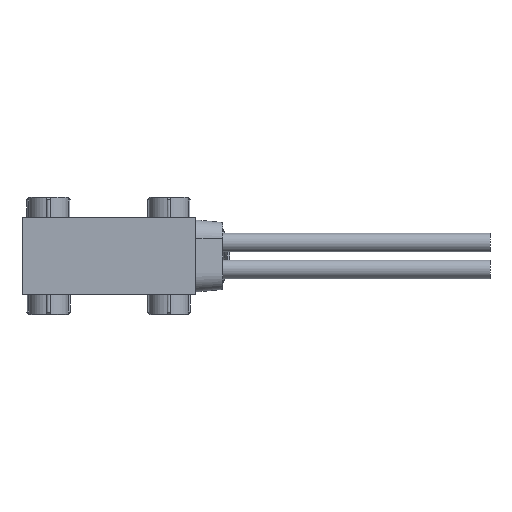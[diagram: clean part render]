
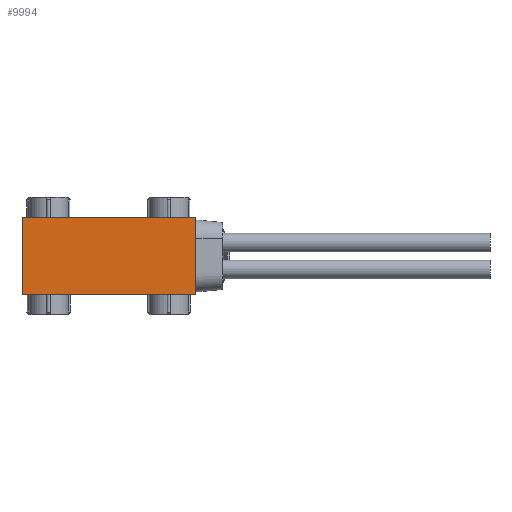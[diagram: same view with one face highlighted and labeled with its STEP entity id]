
A CAD part, front view. The second image highlights one B-rep face of the part: STEP entity #9994.
In plain terms, the highlighted planar face has unit normal (0, -1, 0).
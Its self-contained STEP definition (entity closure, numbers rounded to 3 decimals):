
#5664 = CARTESIAN_POINT ( 'NONE',  ( -6.5, -3.645, -2.9 ) ) ;
#5665 = DIRECTION ( 'NONE',  ( 1., 0., 0. ) ) ;
#5666 = VECTOR ( 'NONE', #5665, 1000. ) ;
#5667 = CARTESIAN_POINT ( 'NONE',  ( 6.5, -3.645, -2.9 ) ) ;
#5668 = LINE ( 'NONE', #5667, #5666 ) ;
#5669 = CARTESIAN_POINT ( 'NONE',  ( 6.5, -3.645, -2.9 ) ) ;
#6301 = DIRECTION ( 'NONE',  ( 0., 0., -1. ) ) ;
#6302 = VECTOR ( 'NONE', #6301, 1000. ) ;
#6303 = CARTESIAN_POINT ( 'NONE',  ( 6.5, -3.645, 2.9 ) ) ;
#6304 = LINE ( 'NONE', #6303, #6302 ) ;
#6353 = DIRECTION ( 'NONE',  ( -1., 0., 0. ) ) ;
#6354 = DIRECTION ( 'NONE',  ( 0., 1., 0. ) ) ;
#6355 = CARTESIAN_POINT ( 'NONE',  ( 6.5, -3.645, 2.9 ) ) ;
#6356 = AXIS2_PLACEMENT_3D ( 'NONE', #6355, #6354, #6353 ) ;
#6358 = PLANE ( 'NONE',  #6356 ) ;
#6373 = FACE_OUTER_BOUND ( 'NONE', #9995, .T. ) ;
#6374 = DIRECTION ( 'NONE',  ( 0., 0., -1. ) ) ;
#6375 = VECTOR ( 'NONE', #6374, 1000. ) ;
#6376 = CARTESIAN_POINT ( 'NONE',  ( -6.5, -3.645, 2.9 ) ) ;
#6377 = LINE ( 'NONE', #6376, #6375 ) ;
#9885 = VERTEX_POINT ( 'NONE', #5669 ) ;
#9887 = EDGE_CURVE ( 'NONE', #9888, #9885, #5668, .T. ) ;
#9888 = VERTEX_POINT ( 'NONE', #5664 ) ;
#9982 = EDGE_CURVE ( 'NONE', #12413, #9885, #6304, .T. ) ;
#9989 = EDGE_CURVE ( 'NONE', #12404, #9888, #6377, .T. ) ;
#9994 = ADVANCED_FACE ( 'NONE', ( #6373 ), #6358, .F. ) ;
#9995 = EDGE_LOOP ( 'NONE', ( #9996, #9997, #9998, #9999 ) ) ;
#9996 = ORIENTED_EDGE ( 'NONE', *, *, #9887, .T. ) ;
#9997 = ORIENTED_EDGE ( 'NONE', *, *, #9982, .F. ) ;
#9998 = ORIENTED_EDGE ( 'NONE', *, *, #12411, .F. ) ;
#9999 = ORIENTED_EDGE ( 'NONE', *, *, #9989, .T. ) ;
#12404 = VERTEX_POINT ( 'NONE', #16952 ) ;
#12411 = EDGE_CURVE ( 'NONE', #12404, #12413, #16943, .T. ) ;
#12413 = VERTEX_POINT ( 'NONE', #16938 ) ;
#16938 = CARTESIAN_POINT ( 'NONE',  ( 6.5, -3.645, 2.9 ) ) ;
#16940 = DIRECTION ( 'NONE',  ( 1., 0., 0. ) ) ;
#16941 = VECTOR ( 'NONE', #16940, 1000. ) ;
#16942 = CARTESIAN_POINT ( 'NONE',  ( 6.5, -3.645, 2.9 ) ) ;
#16943 = LINE ( 'NONE', #16942, #16941 ) ;
#16952 = CARTESIAN_POINT ( 'NONE',  ( -6.5, -3.645, 2.9 ) ) ;
